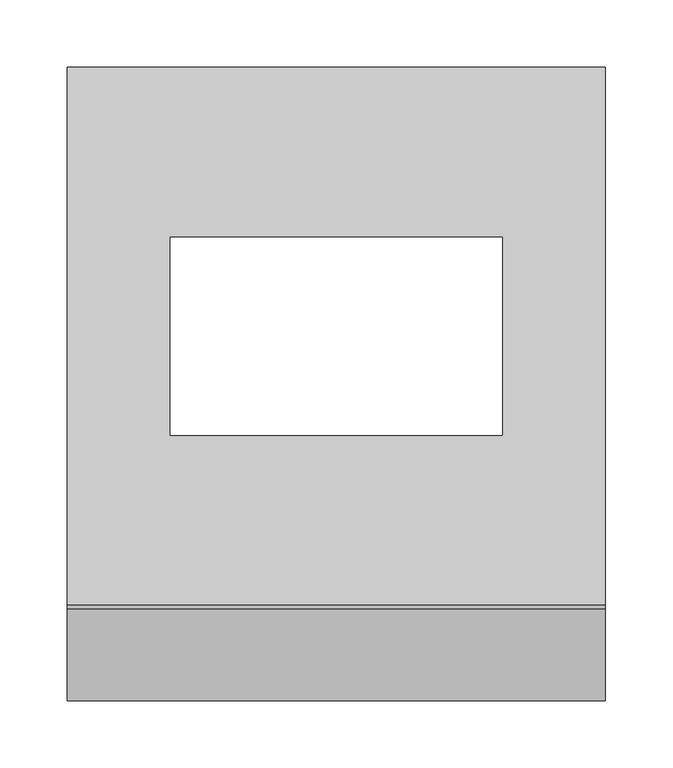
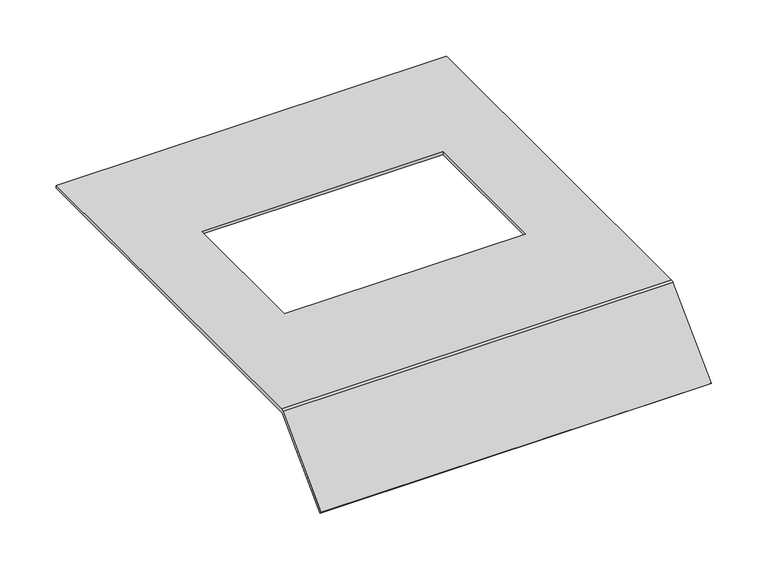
"""IFC4 building model written with IfcOpenShell, lengths in millimetres: proxy geometry, Electrical_Installation_Hager_Covers-With-Installation-Opening-E04 : Electrical_Installation_Hager_Covers-With-Installation-Opening-E04."""

import ifcopenshell
import ifcopenshell.guid

model = None  # the IFC model being written
_history = None  # IfcOwnerHistory: only IFC2X3 demands one
_inside = {}  # id of a spatial element -> (the spatial element, [elements in it])
_under = {}  # id of a project, library or spatial element -> (it, [spatial elements below it])
_declared = {}  # id of a project -> (the project, [libraries it declares])
_typed = {}  # id of a type object -> (the type object, [elements of that type])
_made_of = {}  # id of a material, layer set ... -> (it, [elements and type objects made of it])


def new_model(schema):
    """Start an empty IFC model of exactly this schema.

    Asked for "IFC4X3", IfcOpenShell would pick the latest addendum, in which some entities
    have other attributes; the version numbers below select the first issue.
    IFC2X3 requires an IfcOwnerHistory on every rooted entity: one is made here for all.
    """
    global model, _history
    if schema == "IFC4X3":
        model = ifcopenshell.file(schema_version=(4, 3, 0, 0))
    else:
        model = ifcopenshell.file(schema=schema)
    _inside.clear()
    _under.clear()
    _declared.clear()
    _typed.clear()
    _made_of.clear()
    _history = None
    if model.schema == "IFC2X3":
        org = make("IfcOrganization", Name="unknown")
        user = make(
            "IfcPersonAndOrganization",
            ThePerson=make("IfcPerson", FamilyName="unknown"),
            TheOrganization=org,
        )
        app = make(
            "IfcApplication",
            ApplicationDeveloper=org,
            Version="unknown",
            ApplicationFullName="unknown",
            ApplicationIdentifier="unknown",
        )
        _history = make(
            "IfcOwnerHistory",
            OwningUser=user,
            OwningApplication=app,
            ChangeAction="ADDED",
            CreationDate=0,
        )
    return model


def make(cls, **values):
    """One entity of the class cls with the attributes given. An attribute that is None is left unset."""
    return model.create_entity(
        cls, **{name: value for name, value in values.items() if value is not None}
    )


def rooted(cls, **values):
    """An entity with a GlobalId (a new one), such as an element, a storey or a relation."""
    return make(cls, GlobalId=ifcopenshell.guid.new(), OwnerHistory=_history, **values)


def si_unit(unit_type, name, prefix=None):
    """IfcSIUnit, for example si_unit("LENGTHUNIT", "METRE", prefix="MILLI")."""
    return make("IfcSIUnit", UnitType=unit_type, Prefix=prefix, Name=name)


def assignment(units):
    """IfcUnitAssignment: the units of a project."""
    return None if units is None else make("IfcUnitAssignment", Units=units)


def point(xyz):
    """IfcCartesianPoint."""
    return None if xyz is None else make("IfcCartesianPoint", Coordinates=xyz)


def direction(xyz):
    """IfcDirection."""
    return None if xyz is None else make("IfcDirection", DirectionRatios=xyz)


def frame(location, z_axis=None, x_axis=None):
    """IfcAxis2Placement3D, a coordinate frame: its origin and axes. An axis left out is left unset."""
    return make(
        "IfcAxis2Placement3D",
        Location=point(location),
        Axis=direction(z_axis),
        RefDirection=direction(x_axis),
    )


def origin():
    """The frame at (0, 0, 0) with its axes left unset."""
    return frame((0.0, 0.0, 0.0))


def place(relative_to, where):
    """IfcLocalPlacement: puts the frame where relative to a parent placement (None: the world)."""
    return make(
        "IfcLocalPlacement", PlacementRelTo=relative_to, RelativePlacement=where
    )


def context(
    kind, dimensions, precision=None, world=None, true_north=None, identifier=None
):
    """IfcGeometricRepresentationContext, for example the 3D "Model" context."""
    return make(
        "IfcGeometricRepresentationContext",
        ContextIdentifier=identifier,
        ContextType=kind,
        CoordinateSpaceDimension=dimensions,
        Precision=precision,
        WorldCoordinateSystem=world,
        TrueNorth=true_north,
    )


def project(units=None, contexts=None):
    """IfcProject with its units and contexts."""
    return rooted(
        "IfcProject",
        Name="project",
        RepresentationContexts=contexts,
        UnitsInContext=assignment(units),
    )


def spatial(cls, under=None, at=None, **own):
    """A site, building, storey or space (cls), placed at a placement, below another one or the project."""
    s = rooted(cls, ObjectPlacement=at, **own)
    if under is not None:
        _under.setdefault(under.id(), (under, []))[1].append(s)
    return s


def polyline(points):
    """IfcPolyline through the points."""
    return make("IfcPolyline", Points=[point(p) for p in points])


def circle_curve(where, radius):
    """IfcCircle in the frame where."""
    return make("IfcCircle", Position=where, Radius=radius)


def shape(context_of_items, identifier, shape_type, items):
    """IfcShapeRepresentation: the items that make up one representation, for example the "Body"."""
    return make(
        "IfcShapeRepresentation",
        ContextOfItems=context_of_items,
        RepresentationIdentifier=identifier,
        RepresentationType=shape_type,
        Items=items,
    )


def source(mapping_origin, context_of_items, identifier, shape_type, items):
    """IfcRepresentationMap: a shape defined once, which mapped items show again and again."""
    return make(
        "IfcRepresentationMap",
        MappingOrigin=mapping_origin,
        MappedRepresentation=shape(context_of_items, identifier, shape_type, items),
    )


def transform(
    local_origin,
    x_axis=None,
    y_axis=None,
    z_axis=None,
    scale=None,
    scale2=None,
    scale3=None,
    uniform=True,
):
    """IfcCartesianTransformationOperator3D, or its non-uniform kind. x_axis, y_axis, z_axis: its Axis1, 2, 3."""
    if uniform:
        return make(
            "IfcCartesianTransformationOperator3D",
            Axis1=direction(x_axis),
            Axis2=direction(y_axis),
            LocalOrigin=point(local_origin),
            Scale=scale,
            Axis3=direction(z_axis),
        )
    return make(
        "IfcCartesianTransformationOperator3DnonUniform",
        Axis1=direction(x_axis),
        Axis2=direction(y_axis),
        LocalOrigin=point(local_origin),
        Scale=scale,
        Axis3=direction(z_axis),
        Scale2=scale2,
        Scale3=scale3,
    )


def mapped(mapping_source, mapping_target):
    """IfcMappedItem: shows the shape of a source again, moved by a transform."""
    return make(
        "IfcMappedItem", MappingSource=mapping_source, MappingTarget=mapping_target
    )


def made_of(thing, what):
    """Note that an element or type object is made of a material, layer set ...; save() writes the relation."""
    if what is not None:
        _made_of.setdefault(what.id(), (what, []))[1].append(thing)
    return thing


def element(
    cls,
    number,
    at=None,
    inside=None,
    cuts=None,
    type_object=None,
    material=None,
    context=None,
    identifier="Body",
    shape_type=None,
    held_by="IfcProductDefinitionShape",
    body=None,
    shapes=None,
    **own,
):
    """One element of the class cls, such as IfcWall. Its Tag is "e" and its number.

    at: its placement. inside: the storey or other place that contains it. cuts: it is an
    opening in that element (IfcRelVoidsElement). A single representation is given by context,
    identifier, shape_type and body (its items); several are given by shapes. held_by: the class
    of the entity that holds the representations. save() writes the other relations.
    """
    e = rooted(cls, Tag="e%d" % number, ObjectPlacement=at, **own)
    if body is not None:
        shapes = [shape(context, identifier, shape_type, body)]
    if shapes is not None:
        e.Representation = make(held_by, Representations=shapes)
    if inside is not None:
        _inside.setdefault(inside.id(), (inside, []))[1].append(e)
    if cuts is not None:
        rooted(
            "IfcRelVoidsElement", RelatingBuildingElement=cuts, RelatedOpeningElement=e
        )
    if type_object is not None:
        _typed.setdefault(type_object.id(), (type_object, []))[1].append(e)
    return made_of(e, material)


def aggregate(whole, parts):
    """IfcRelAggregates: a whole, such as a stair, and the parts it consists of."""
    return rooted("IfcRelAggregates", RelatingObject=whole, RelatedObjects=parts)


def save(model, path):
    """Write the relations noted so far, then the file.

    IfcRelAggregates (storeys below a building ...), IfcRelContainedInSpatialStructure (elements
    in a storey), IfcRelDefinesByType, IfcRelAssociatesMaterial and IfcRelDeclares: one each for
    every whole, place, type object, material and project.
    """
    for whole, parts in _under.values():
        aggregate(whole, parts)
    for where, things in _inside.values():
        rooted(
            "IfcRelContainedInSpatialStructure",
            RelatedElements=things,
            RelatingStructure=where,
        )
    for kind, things in _typed.values():
        rooted("IfcRelDefinesByType", RelatedObjects=things, RelatingType=kind)
    for what, things in _made_of.values():
        rooted("IfcRelAssociatesMaterial", RelatedObjects=things, RelatingMaterial=what)
    for by, libraries in _declared.values():
        rooted("IfcRelDeclares", RelatingContext=by, RelatedDefinitions=libraries)
    model.write(path)


def plane_surface(at):
    """IfcPlane: the flat surface through the origin of the frame at, square to its z axis."""
    return make("IfcPlane", Position=at)


def cylinder_surface(at, radius):
    """IfcCylindricalSurface: all points at the distance radius from the z axis of the frame at."""
    return make("IfcCylindricalSurface", Position=at, Radius=radius)


def revolved_surface(curve, axis_point, axis_direction):
    """IfcSurfaceOfRevolution: the curve turned about the line through axis_point along axis_direction."""
    return make(
        "IfcSurfaceOfRevolution",
        SweptCurve=make("IfcArbitraryOpenProfileDef", ProfileType="CURVE", Curve=curve),
        AxisPosition=make("IfcAxis1Placement", Location=point(axis_point), Axis=direction(axis_direction)),
    )


def advanced_brep(points, edges, surfaces, faces):
    """IfcAdvancedBrep: a solid bounded by faces that lie on surfaces and meet in shared edges.

    An edge is (start, end): straight between two places in points (the first is 0);
    or (start, end, curve); or (start, end, curve, False) where it runs against its curve.
    A face is (place in surfaces, loops), or (place, loops, False) where it looks against
    its surface's normal. A loop lists edges by number (the first is 1), with a minus sign
    where the edge is run from its end to its start. The first loop is the outer one.
    """
    corners = [point(p) for p in points]
    vertices = [make("IfcVertexPoint", VertexGeometry=c) for c in corners]
    made = []
    for start, end, *more in edges:
        made.append(
            make(
                "IfcEdgeCurve",
                EdgeStart=vertices[start],
                EdgeEnd=vertices[end],
                EdgeGeometry=more[0] if more else make("IfcPolyline", Points=[corners[start], corners[end]]),
                SameSense=more[1] if len(more) > 1 else True,
            )
        )
    hull = []
    for where, loops, *sense in faces:
        bounds = []
        for j, loop in enumerate(loops):
            ring = [make("IfcOrientedEdge", EdgeElement=made[abs(k) - 1], Orientation=k > 0) for k in loop]
            bounds.append(
                make(
                    "IfcFaceOuterBound" if j == 0 else "IfcFaceBound",
                    Bound=make("IfcEdgeLoop", EdgeList=ring),
                    Orientation=True,
                )
            )
        hull.append(make("IfcAdvancedFace", Bounds=bounds, FaceSurface=surfaces[where], SameSense=sense[0] if sense else True))
    return make("IfcAdvancedBrep", Outer=make("IfcClosedShell", CfsFaces=hull))


def electrical_fixtures_66444e16(model_context):
    return source(origin(), model_context, "Body", "AdvancedBrep", [
        advanced_brep(
        [(0.0, 200.0, 40.5), (0.0, 200.0, 37.5), (0.0, -199.8229541, 37.5), (0.0, -200.8322972, 37.0819164), (0.0, -268.712807, -30.7985934), (0.0, -270.8341273, -28.6772731), (0.0, -202.8206472, 39.336207), (0.0, -200.0110025, 40.5), (400.0, 200.0, 40.5), (400.0, -200.0110025, 40.5), (400.0, -202.8206472, 39.336207), (400.0, -270.8341273, -28.6772731), (400.0, -268.712807, -30.7985934), (400.0, -200.8322972, 37.0819164), (400.0, -199.8229541, 37.5), (400.0, 200.0, 37.5), (323.5, 73.5, 37.5), (76.5, 73.5, 37.5), (76.5, -73.5, 37.5), (323.5, -73.5, 37.5), (76.5, 73.5, 40.5), (323.5, 73.5, 40.5), (323.5, -73.5, 40.5), (76.5, -73.5, 40.5)],
        [
            (0, 1),
            (1, 2),
            (2, 3, circle_curve(frame((0.0, -199.8229541, 36.0725733), z_axis=(1.0, 0.0, 0.0), x_axis=(0.0, 1.0, 0.0)), 1.4274267)),
            (3, 4),
            (4, 5),
            (5, 6),
            (6, 7, circle_curve(frame((0.0, -200.0110025, 36.5265623), z_axis=(-1.0, 0.0, 0.0), x_axis=(0.0, 1.0, 0.0)), 3.9734377)),
            (7, 0),
            (8, 9),
            (9, 10, circle_curve(frame((400.0, -200.0110025, 36.5265623), z_axis=(1.0, 0.0, 0.0), x_axis=(0.0, 1.0, 0.0)), 3.9734377)),
            (10, 11),
            (11, 12),
            (12, 13),
            (13, 14, circle_curve(frame((400.0, -199.8229541, 36.0725733), z_axis=(-1.0, 0.0, 0.0), x_axis=(0.0, 1.0, 0.0)), 1.4274267)),
            (14, 15),
            (15, 8),
            (0, 8),
            (15, 1),
            (14, 2),
            (16, 17),
            (17, 18),
            (18, 19),
            (19, 16),
            (13, 3),
            (12, 4),
            (11, 5),
            (10, 6),
            (9, 7),
            (20, 21),
            (21, 22),
            (22, 23),
            (23, 20),
            (16, 21),
            (20, 17),
            (23, 18),
            (22, 19),
        ],
        [
            plane_surface(frame((0.0, 0.3269864, 15.0), z_axis=(-1.0, 0.0, 0.0), x_axis=(0.0, 0.0, 1.0))),
            plane_surface(frame((400.0, 0.3269864, 15.0), z_axis=(1.0, 0.0, 0.0), x_axis=(0.0, 0.0, 1.0))),
            plane_surface(frame((0.0, 200.0, 40.5), z_axis=(0.0, 1.0, 0.0), x_axis=(1.0, 0.0, 0.0))),
            plane_surface(frame((0.0, 200.0, 37.5), z_axis=(0.0, 0.0, -1.0), x_axis=(1.0, 0.0, 0.0))),
            revolved_surface(polyline([(400.0, -198.3955274, 36.0725733), (0.0, -198.3955274, 36.0725733)]), (0.0, -199.8229541, 36.0725733), (1.0, 0.0, 0.0)),
            plane_surface(frame((0.0, -200.8322972, 37.0819164), z_axis=(0.0, 0.7071067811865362, -0.7071067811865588), x_axis=(1.0, 0.0, 0.0))),
            plane_surface(frame((0.0, -268.712807, -30.7985934), z_axis=(0.0, -0.7071067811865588, -0.7071067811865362), x_axis=(1.0, 0.0, 0.0))),
            plane_surface(frame((0.0, -270.8341273, -28.6772731), z_axis=(0.0, -0.7071067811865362, 0.707106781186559), x_axis=(1.0, 0.0, 0.0))),
            cylinder_surface(frame((0.0, -200.0110025, 36.5265623), z_axis=(-1.0, 0.0, 0.0), x_axis=(0.0, 1.0, 0.0)), 3.9734377),
            plane_surface(frame((0.0, -200.0110025, 40.5), z_axis=(0.0, 0.0, 1.0), x_axis=(1.0, 0.0, 0.0))),
            plane_surface(frame((323.5, 73.5, 250.0), z_axis=(0.0, -1.0, 0.0), x_axis=(0.0, 0.0, -1.0))),
            plane_surface(frame((76.5, 73.5, 250.0), z_axis=(1.0, 0.0, 0.0), x_axis=(0.0, 0.0, -1.0))),
            plane_surface(frame((76.5, -73.5, 250.0), z_axis=(0.0, 1.0, 0.0), x_axis=(0.0, 0.0, -1.0))),
            plane_surface(frame((323.5, -73.5, 250.0), z_axis=(-1.0, 0.0, 0.0), x_axis=(0.0, 0.0, -1.0))),
        ],
        [
            (0, [[1, 2, 3, 4, 5, 6, 7, 8]]),
            (1, [[9, 10, 11, 12, 13, 14, 15, 16]]),
            (2, [[-1, 17, -16, 18]]),
            (3, [[-2, -18, -15, 19], [20, 21, 22, 23]]),
            (4, [[-3, -19, -14, 24]]),
            (5, [[-4, -24, -13, 25]]),
            (6, [[-5, -25, -12, 26]]),
            (7, [[-6, -26, -11, 27]]),
            (8, [[-7, -27, -10, 28]]),
            (9, [[-8, -28, -9, -17], [29, 30, 31, 32]]),
            (10, [[33, -29, 34, -20]]),
            (11, [[-34, -32, 35, -21]]),
            (12, [[-35, -31, 36, -22]]),
            (13, [[-33, -23, -36, -30]]),
        ],
    ),
    ])


if __name__ == "__main__":
    model = new_model("IFC4")
    model_context = context("Model", 3, world=origin())
    ifc_project = project(units=[si_unit("LENGTHUNIT", "METRE", prefix="MILLI")], contexts=[model_context])
    site = spatial("IfcSite", under=ifc_project)
    building = spatial("IfcBuilding", under=site)
    placement = place(None, origin())
    electrical_fixtures_shape = electrical_fixtures_66444e16(model_context)
    element("IfcBuildingElementProxy", 1, Name="Electrical_Installation_Hager_Covers-With-Installation-Opening-E04 : Electrical_Installation_Hager_Covers-With-Installation-Opening-E04", ObjectType="Electrical_Installation_Hager_Covers-With-Installation-Opening-E04 : Electrical_Installation_Hager_Covers-With-Installation-Opening-E04", at=placement, inside=building, context=model_context, shape_type="MappedRepresentation", body=[
        mapped(electrical_fixtures_shape, transform((0.0, 0.0, 0.0), x_axis=(1.0, 0.0, 0.0), y_axis=(0.0, 1.0, 0.0), z_axis=(0.0, 0.0, 1.0))),
    ])
    save(model, "model.ifc")
